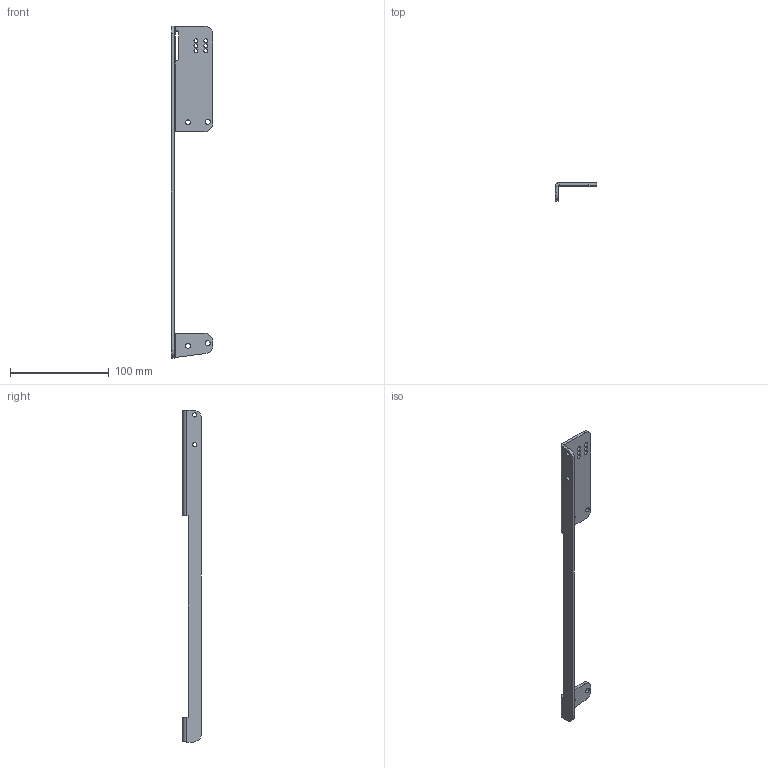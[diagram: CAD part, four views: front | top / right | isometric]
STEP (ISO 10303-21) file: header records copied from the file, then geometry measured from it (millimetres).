
FILE_DESCRIPTION((''),'2;1');
FILE_NAME('0000187050','2024-02-23T19:29:14',('Wyndorps'),(''),'CREO PARAMETRIC BY PTC INC, 2022484','CREO PARAMETRIC BY PTC INC, 2022484','');
FILE_SCHEMA(('CONFIG_CONTROL_DESIGN'));
Length unit declared in the file: millimetre
Products named in the file (1): 0000187050
Bounding box: 42 x 18.5 x 335.48 mm (x, y, z)
Volume: 28699.8 mm3; surface area: 22358.9 mm2
Topology: 1 solids, 1 shells, 62 faces, 166 edges, 104 vertices
Faces by surface type: cylinder 36, plane 23, bspline 3
Entity records: 2184 total; most frequent: CARTESIAN_POINT 507, DIRECTION 348, ORIENTED_EDGE 332, EDGE_CURVE 166, AXIS2_PLACEMENT_3D 129, VERTEX_POINT 104, VECTOR 90, LINE 90
